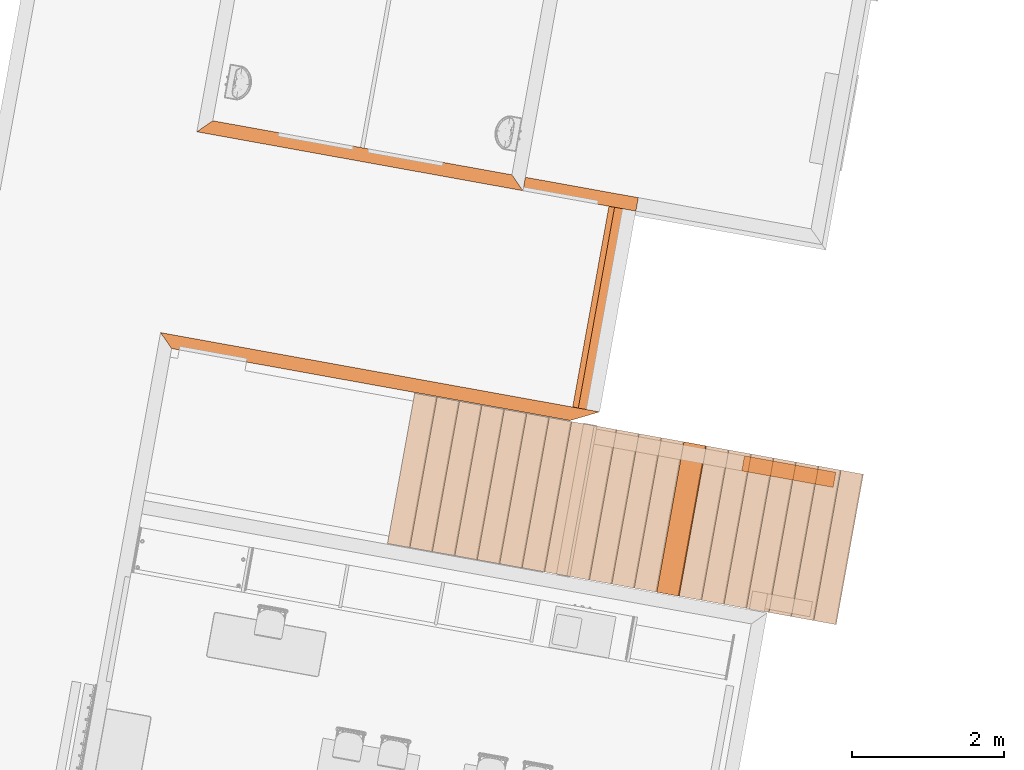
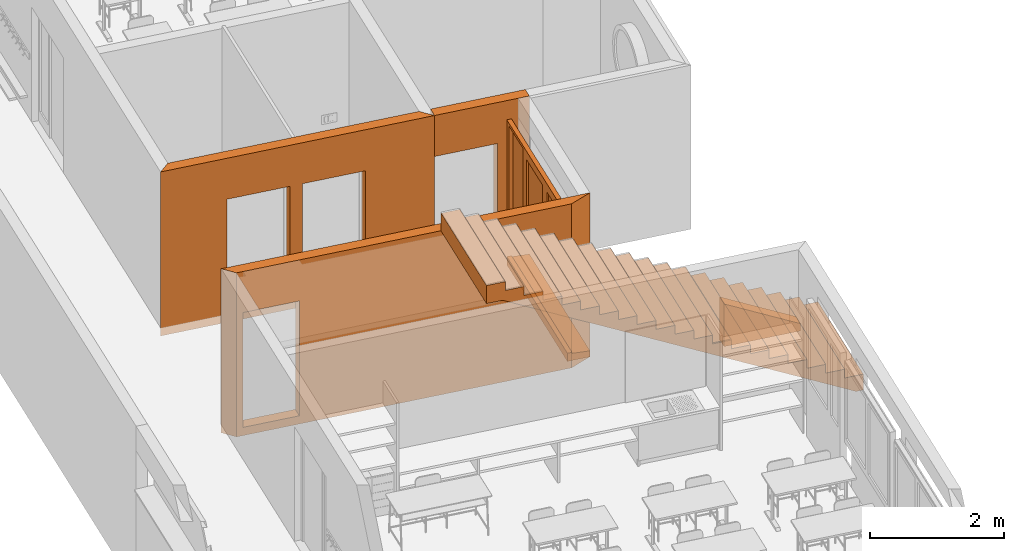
# One storey, part 59 of 79: 8 proxies, 1 element without a shape of its own.
"""IFC2X3 building model written with IfcOpenShell, lengths in metres."""

from ifc_helpers import new_model, entity, si_unit, converted_unit, derived_unit, money_unit, direction, frame, origin_with_axes, place, context, subcontext, project, spatial, polyline, outline, extrude, boolean, open_shell, faceted_brep, surface_model, material, type_object, element, aggregate, save


model = new_model("IFC2X3")

# Units and contexts
model_context = context("Model", 3, precision=1e-05, world=origin_with_axes(), true_north=direction((0.0, 1.0)))
body_context = subcontext(model_context, "Body", "Model", "MODEL_VIEW")
ifc_project = project(units=[si_unit("LENGTHUNIT", "METRE"), si_unit("AREAUNIT", "SQUARE_METRE"), si_unit("VOLUMEUNIT", "CUBIC_METRE"), converted_unit("PLANEANGLEUNIT", "DEGREE", entity("IfcPlaneAngleMeasure", 0.0174532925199), si_unit("PLANEANGLEUNIT", "RADIAN"), dimensions=[0, 0, 0, 0, 0, 0, 0]), money_unit("CHF"), converted_unit("TIMEUNIT", "Year", entity("IfcTimeMeasure", 31556926.0), si_unit("TIMEUNIT", "SECOND"), dimensions=[0, 0, 1, 0, 0, 0, 0]), si_unit("MASSUNIT", "GRAM", prefix="KILO"), si_unit("THERMODYNAMICTEMPERATUREUNIT", "DEGREE_CELSIUS"), si_unit("LUMINOUSINTENSITYUNIT", "LUMEN"), si_unit("ENERGYUNIT", "JOULE", prefix="MEGA"), derived_unit("THERMALCONDUCTANCEUNIT", [(si_unit("POWERUNIT", "WATT"), 1), (si_unit("LENGTHUNIT", "METRE"), -1), (si_unit("THERMODYNAMICTEMPERATUREUNIT", "KELVIN"), -1)]), derived_unit("SPECIFICHEATCAPACITYUNIT", [(si_unit("ENERGYUNIT", "JOULE"), 1), (si_unit("MASSUNIT", "GRAM", prefix="KILO"), -1), (si_unit("THERMODYNAMICTEMPERATUREUNIT", "KELVIN"), -1)]), derived_unit("MASSDENSITYUNIT", [(si_unit("MASSUNIT", "GRAM", prefix="KILO"), 1), (si_unit("VOLUMEUNIT", "CUBIC_METRE"), -1)])], contexts=[model_context])

# Site, building, storey
site_placement = place(None, frame((0.0, 0.0, 0.0), z_axis=(0.0, 0.0, 1.0), x_axis=(-0.177771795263, -0.984071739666, 0.0)))
site = spatial("IfcSite", under=ifc_project, at=site_placement, Name="Site", CompositionType="ELEMENT")
building_placement = place(site_placement, origin_with_axes())
building = spatial("IfcBuilding", under=site, at=building_placement, Name="Bâtiment", CompositionType="ELEMENT")
storey_placement = place(building_placement, origin_with_axes())
storey = spatial("IfcBuildingStorey", under=building, at=storey_placement, Name="RDC", CompositionType="ELEMENT", Elevation=0.0)

# Proxies
ifc_material_1 = material(Name="_Agglos")
building_element_proxy_type_1 = type_object("IfcBuildingElementProxyType", Name="_Agglos 200", PredefinedType="NOTDEFINED")
proxy_1_placement = place(storey_placement, frame((144.410042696, -148.777810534, -0.15), z_axis=(0.0, 0.0, 1.0), x_axis=(0.0, 1.0, 0.0)))
element("IfcBuildingElementProxy", 1, at=proxy_1_placement, inside=storey, type_object=building_element_proxy_type_1, material=ifc_material_1, Name="M ext esc-dessous", context=body_context, shape_type="Brep", body=[
    faceted_brep([(0.0, 0.2, 0.781242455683), (1.22066117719, 0.2, 0.130223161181), (1.22066117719, 0.2, 0.0), (0.0, 0.2, 0.0), (1.22066117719, 0.0, 0.130223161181), (0.0, 0.0, 0.781242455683), (1.22066117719, 0.0, 0.0), (0.0, 0.0, 0.0)], [[[0, 1, 2, 3]], [[4, 1, 0, 5]], [[1, 4, 6, 2]], [[6, 7, 3, 2]], [[5, 0, 3, 7]], [[4, 5, 7, 6]]]),
])
ifc_material_2 = material(Name="_BA banché RAL9007")
building_element_proxy_type_2 = type_object("IfcBuildingElementProxyType", Name="_BA banché RAL9007 180", PredefinedType="NOTDEFINED")
proxy_2_placement = place(storey_placement, frame((144.159841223, -156.627149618, -0.15), z_axis=(0.0, 0.0, 1.0), x_axis=(0.0, 1.0, 0.0)))
element("IfcBuildingElementProxy", 2, at=proxy_2_placement, inside=storey, type_object=building_element_proxy_type_2, material=ifc_material_2, Name="M refend", context=body_context, shape_type="CSG", body=[
    boolean("DIFFERENCE", extrude(outline(polyline([(0.18, 0.0), (5.51000031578, 0.0), (5.8700003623, 0.18), (1.12389102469e-08, 0.18), (0.18, 0.0)])), origin_with_axes(), (0.0, 0.0, 1.0), 3.0), faceted_brep([(0.280147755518, 0.18, 0.15), (0.280147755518, 0.18, 2.25), (1.18014775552, 0.18, 2.25), (1.18014775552, 0.18, 0.15), (0.280147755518, 0.0, 0.15), (0.280147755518, 0.0, 2.25), (1.18014775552, 0.0, 2.25), (1.18014775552, 0.0, 0.15)], [[[0, 1, 2, 3]], [[4, 5, 1, 0]], [[5, 6, 2, 1]], [[6, 7, 3, 2]], [[7, 4, 0, 3]], [[4, 7, 6, 5]]])),
])
proxy_3_placement = place(storey_placement, frame((141.294841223, -156.627150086, -0.15), z_axis=(0.0, 0.0, 1.0), x_axis=(0.0, 1.0, 0.0)))
element("IfcBuildingElementProxy", 3, at=proxy_3_placement, inside=storey, type_object=building_element_proxy_type_2, material=ifc_material_2, Name="M refend", context=body_context, shape_type="CSG", body=[
    boolean("DIFFERENCE", boolean("DIFFERENCE", extrude(outline(polyline([(0.0, 0.0), (4.36005520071, 0.0), (4.18005520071, 0.18), (0.179999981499, 0.18), (0.0, 0.0)])), origin_with_axes(), (0.0, 0.0, 1.0), 3.0), faceted_brep([(1.06, 0.18, 0.15), (1.06, 0.18, 2.25), (2.06, 0.18, 2.25), (2.06, 0.18, 0.15), (1.06, 0.0, 0.15), (1.06, 0.0, 2.25), (2.06, 0.0, 2.25), (2.06, 0.0, 0.15)], [[[0, 1, 2, 3]], [[4, 5, 1, 0]], [[5, 6, 2, 1]], [[6, 7, 3, 2]], [[7, 4, 0, 3]], [[4, 7, 6, 5]]])), faceted_brep([(2.26, 0.18, 0.15), (2.26, 0.18, 2.25), (3.26, 0.18, 2.25), (3.26, 0.18, 0.15), (2.26, 0.0, 0.15), (2.26, 0.0, 2.25), (3.26, 0.0, 2.25), (3.26, 0.0, 0.15)], [[[0, 1, 2, 3]], [[4, 5, 1, 0]], [[5, 6, 2, 1]], [[6, 7, 3, 2]], [[7, 4, 0, 3]], [[4, 7, 6, 5]]])),
])
building_element_proxy_type_3 = type_object("IfcBuildingElementProxyType", Name="_M ext 18 +18 gris 360", PredefinedType="NOTDEFINED")
proxy_4_placement = place(storey_placement, frame((141.294841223, -152.267150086, -0.15), z_axis=(0.0, 0.0, 1.0), x_axis=(0.0, 1.0, 0.0)))
element("IfcBuildingElementProxy", 4, at=proxy_4_placement, inside=storey, type_object=building_element_proxy_type_3, material=ifc_material_2, Name="M ext entretien-Sud", context=body_context, shape_type="CSG", body=[
    boolean("DIFFERENCE", extrude(outline(polyline([(0.0, 0.0), (1.51000152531, 0.0), (1.51000152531, 0.18), (0.0, 0.18), (0.0, 0.0)])), origin_with_axes(), (0.0, 0.0, 1.0), 3.0), faceted_brep([(0.0, 0.0, 0.15), (1.0, 0.0, 0.15), (1.0, 0.0, 2.25), (0.0, 0.0, 2.25), (0.0, 0.18, 0.15), (1.0, 0.18, 0.15), (1.0, 0.18, 2.25), (0.0, 0.18, 2.25)], [[[0, 1, 2, 3]], [[1, 0, 4, 5]], [[2, 1, 5, 6]], [[3, 2, 6, 7]], [[4, 0, 3, 7]], [[5, 4, 7, 6]]])),
])
building_element_proxy_type_4 = type_object("IfcBuildingElementProxyType", Name="_BA banché RAL9007 150", PredefinedType="NOTDEFINED")
proxy_5_placement = place(storey_placement, frame((141.294840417, -151.117148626, 0.0), z_axis=(0.0, 0.0, 1.0), x_axis=(1.0, 0.0, 0.0)))
element("IfcBuildingElementProxy", 5, at=proxy_5_placement, inside=storey, type_object=building_element_proxy_type_4, material=ifc_material_2, Name="Seuil acces cour", context=body_context, shape_type="Brep", body=[
    faceted_brep([(0.0, 0.35999918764, -0.04), (2.68500078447, 0.359999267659, -0.04), (2.68500078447, 0.359999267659, -0.15), (0.0, 0.35999918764, -0.15), (2.68500070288, 0.0750029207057, -0.02), (-8.15839500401e-08, 0.075, -0.02), (2.68500070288, 0.0750029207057, 0.0), (2.68500078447, 2.92070572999e-06, 0.0), (2.68500078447, 2.92070572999e-06, -0.15), (0.0, 0.0, -0.15), (0.0, 0.0, 0.0), (-8.15839500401e-08, 0.075, 0.0)], [[[0, 1, 2, 3]], [[4, 1, 0, 5]], [[4, 6, 7, 8, 2, 1]], [[8, 9, 3, 2]], [[5, 0, 3, 9, 10, 11]], [[11, 6, 4, 5]], [[6, 11, 10, 7]], [[10, 9, 8, 7]]]),
])
ifc_material_3 = material(Name="Matériau de construction IFC")
building_element_proxy_type_5 = type_object("IfcBuildingElementProxyType", Name="Porte double avec tierce vitrée 21", PredefinedType="NOTDEFINED")
proxy_6_placement = place(storey_placement, frame((141.296041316, -150.757148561, 0.0), z_axis=(0.0, 0.0, 1.0), x_axis=(1.0, -2.58814252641e-07, 0.0)))
element("IfcBuildingElementProxy", 6, at=proxy_6_placement, inside=storey, type_object=building_element_proxy_type_5, material=ifc_material_3, Name="Porte cour", context=body_context, shape_type="SurfaceModel", body=[
    faceted_brep([(0.0, -0.285, 0.0), (0.1, -0.285, 0.0), (0.1, -0.36, 0.0), (0.0, -0.36, 0.0), (0.0, -0.285, 2.45), (0.1, -0.285, 2.45), (0.1, -0.285, 0.48), (0.1, -0.36, 0.48), (0.1, -0.36, 2.45), (0.0, -0.36, 2.45)], [[[0, 1, 2, 3]], [[0, 4, 5, 6, 1]], [[1, 6, 7, 2]], [[3, 2, 7, 8, 9]], [[4, 0, 3, 9]], [[5, 4, 9, 8]], [[6, 5, 8, 7]]]),
    faceted_brep([(0.7275, -0.285, 2.45), (0.7275, -0.285, 0.48), (0.7275, -0.36, 0.48), (0.7275, -0.36, 2.45), (0.7775, -0.285, 2.45), (0.7775, -0.285, 0.0), (0.7275, -0.285, 0.0), (0.7275, -0.36, 0.0), (0.7775, -0.36, 0.0), (0.7775, -0.36, 2.45)], [[[0, 1, 2, 3]], [[0, 4, 5, 6, 1]], [[1, 6, 7, 2]], [[3, 2, 7, 8, 9]], [[4, 0, 3, 9]], [[5, 4, 9, 8]], [[6, 5, 8, 7]]]),
    faceted_brep([(0.1, -0.285, 0.48), (0.1, -0.285, 0.0), (0.1, -0.36, 0.0), (0.1, -0.36, 0.48), (0.7275, -0.285, 0.48), (0.7275, -0.285, 0.0), (0.7275, -0.36, 0.0), (0.7275, -0.36, 0.48)], [[[0, 1, 2, 3]], [[0, 4, 5, 1]], [[1, 5, 6, 2]], [[3, 2, 6, 7]], [[4, 0, 3, 7]], [[5, 4, 7, 6]]]),
    faceted_brep([(2.6825, -0.285, 0.0), (2.6825, -0.285, 2.45), (2.6825, -0.36, 2.45), (2.6825, -0.36, 0.0), (2.5825, -0.285, 0.0), (2.5825, -0.285, 2.45), (2.5825, -0.36, 2.45), (2.5825, -0.36, 0.0)], [[[0, 1, 2, 3]], [[0, 4, 5, 1]], [[1, 5, 6, 2]], [[3, 2, 6, 7]], [[4, 0, 3, 7]], [[5, 4, 7, 6]]]),
    faceted_brep([(0.0, -0.285, 2.5), (0.0, -0.285, 2.45), (0.0, -0.36, 2.45), (0.0, -0.36, 2.5), (2.6825, -0.285, 2.5), (2.6825, -0.285, 2.45), (2.5825, -0.285, 2.45), (0.7775, -0.285, 2.45), (0.7275, -0.285, 2.45), (0.1, -0.285, 2.45), (0.1, -0.36, 2.45), (0.7275, -0.36, 2.45), (0.7775, -0.36, 2.45), (2.5825, -0.36, 2.45), (2.6825, -0.36, 2.45), (2.6825, -0.36, 2.5)], [[[0, 1, 2, 3]], [[0, 4, 5, 6, 7, 8, 9, 1]], [[1, 9, 10, 2]], [[3, 2, 10, 11, 12, 13, 14, 15]], [[4, 0, 3, 15]], [[5, 4, 15, 14]], [[6, 5, 14, 13]], [[7, 6, 13, 12]], [[8, 7, 12, 11]], [[9, 8, 11, 10]]]),
    faceted_brep([(2.5825, -0.285, 0.5), (2.5825, -0.36, 0.5), (2.4825, -0.36, 0.5), (2.4825, -0.285, 0.5), (2.5825, -0.285, 2.35), (2.5825, -0.36, 2.35), (2.4825, -0.36, 2.35), (2.4825, -0.285, 2.35)], [[[0, 1, 2, 3]], [[4, 5, 1, 0]], [[1, 5, 6, 2]], [[3, 2, 6, 7]], [[0, 3, 7, 4]], [[7, 6, 5, 4]]]),
    faceted_brep([(1.68, -0.285, 0.5), (1.68, -0.36, 0.5), (1.68, -0.36, 2.35), (1.68, -0.285, 2.35), (1.78, -0.285, 0.5), (1.78, -0.36, 0.5), (1.78, -0.36, 2.35), (1.78, -0.285, 2.35)], [[[0, 1, 2, 3]], [[4, 5, 1, 0]], [[1, 5, 6, 2]], [[3, 2, 6, 7]], [[0, 3, 7, 4]], [[7, 6, 5, 4]]]),
    faceted_brep([(2.5825, -0.285, 0.0), (2.5825, -0.36, 0.0), (1.68, -0.36, 0.0), (1.68, -0.285, 0.0), (2.5825, -0.285, 0.5), (2.5825, -0.36, 0.5), (2.4825, -0.36, 0.5), (1.78, -0.36, 0.5), (1.68, -0.36, 0.5), (1.68, -0.285, 0.5), (1.78, -0.285, 0.5), (2.4825, -0.285, 0.5)], [[[0, 1, 2, 3]], [[4, 5, 1, 0]], [[1, 5, 6, 7, 8, 2]], [[3, 2, 8, 9]], [[0, 3, 9, 10, 11, 4]], [[11, 6, 5, 4]], [[10, 7, 6, 11]], [[9, 8, 7, 10]]]),
    faceted_brep([(2.5825, -0.285, 2.45), (2.5825, -0.36, 2.45), (2.5825, -0.36, 2.35), (2.5825, -0.285, 2.35), (1.68, -0.285, 2.45), (1.68, -0.36, 2.45), (1.68, -0.36, 2.35), (1.78, -0.36, 2.35), (2.4825, -0.36, 2.35), (2.4825, -0.285, 2.35), (1.78, -0.285, 2.35), (1.68, -0.285, 2.35)], [[[0, 1, 2, 3]], [[4, 5, 1, 0]], [[1, 5, 6, 7, 8, 2]], [[3, 2, 8, 9]], [[0, 3, 9, 10, 11, 4]], [[11, 6, 5, 4]], [[10, 7, 6, 11]], [[9, 8, 7, 10]]]),
    surface_model("IfcShellBasedSurfaceModel", [(2.4825, -0.3125, 0.5), (1.78, -0.3125, 0.5), (1.78, -0.3125, 2.35), (2.4825, -0.3125, 2.35)], [open_shell([[[0, 1, 2, 3]]])]),
    surface_model("IfcShellBasedSurfaceModel", [(2.4825, -0.3325, 0.5), (2.4825, -0.3325, 2.35), (1.78, -0.3325, 2.35), (1.78, -0.3325, 0.5)], [open_shell([[[0, 1, 2, 3]]])]),
    faceted_brep([(0.7775, -0.285, 0.5), (0.8775, -0.285, 0.5), (0.8775, -0.36, 0.5), (0.7775, -0.36, 0.5), (0.7775, -0.285, 2.35), (0.8775, -0.285, 2.35), (0.8775, -0.36, 2.35), (0.7775, -0.36, 2.35)], [[[0, 1, 2, 3]], [[0, 4, 5, 1]], [[1, 5, 6, 2]], [[3, 2, 6, 7]], [[4, 0, 3, 7]], [[5, 4, 7, 6]]]),
    faceted_brep([(1.68, -0.285, 0.5), (1.68, -0.285, 2.35), (1.68, -0.36, 2.35), (1.68, -0.36, 0.5), (1.58, -0.285, 0.5), (1.58, -0.285, 2.35), (1.58, -0.36, 2.35), (1.58, -0.36, 0.5)], [[[0, 1, 2, 3]], [[0, 4, 5, 1]], [[1, 5, 6, 2]], [[3, 2, 6, 7]], [[4, 0, 3, 7]], [[5, 4, 7, 6]]]),
    faceted_brep([(0.7775, -0.285, 0.0), (1.68, -0.285, 0.0), (1.68, -0.36, 0.0), (0.7775, -0.36, 0.0), (0.7775, -0.285, 0.5), (0.8775, -0.285, 0.5), (1.58, -0.285, 0.5), (1.68, -0.285, 0.5), (1.68, -0.36, 0.5), (1.58, -0.36, 0.5), (0.8775, -0.36, 0.5), (0.7775, -0.36, 0.5)], [[[0, 1, 2, 3]], [[0, 4, 5, 6, 7, 1]], [[1, 7, 8, 2]], [[3, 2, 8, 9, 10, 11]], [[4, 0, 3, 11]], [[5, 4, 11, 10]], [[6, 5, 10, 9]], [[7, 6, 9, 8]]]),
    faceted_brep([(0.7775, -0.285, 2.45), (0.7775, -0.285, 2.35), (0.7775, -0.36, 2.35), (0.7775, -0.36, 2.45), (1.68, -0.285, 2.45), (1.68, -0.285, 2.35), (1.58, -0.285, 2.35), (0.8775, -0.285, 2.35), (0.8775, -0.36, 2.35), (1.58, -0.36, 2.35), (1.68, -0.36, 2.35), (1.68, -0.36, 2.45)], [[[0, 1, 2, 3]], [[0, 4, 5, 6, 7, 1]], [[1, 7, 8, 2]], [[3, 2, 8, 9, 10, 11]], [[4, 0, 3, 11]], [[5, 4, 11, 10]], [[6, 5, 10, 9]], [[7, 6, 9, 8]]]),
    surface_model("IfcShellBasedSurfaceModel", [(0.8775, -0.3125, 0.5), (0.8775, -0.3125, 2.35), (1.58, -0.3125, 2.35), (1.58, -0.3125, 0.5)], [open_shell([[[0, 1, 2, 3]]])]),
    surface_model("IfcShellBasedSurfaceModel", [(0.8775, -0.3325, 0.5), (1.58, -0.3325, 0.5), (1.58, -0.3325, 2.35), (0.8775, -0.3325, 2.35)], [open_shell([[[0, 1, 2, 3]]])]),
    surface_model("IfcShellBasedSurfaceModel", [(0.1, -0.275, 0.48), (0.1, -0.275, 2.45), (0.7275, -0.275, 2.45), (0.7275, -0.275, 0.48)], [open_shell([[[0, 1, 2, 3]]])]),
    surface_model("IfcShellBasedSurfaceModel", [(0.1, -0.295, 0.48), (0.7275, -0.295, 0.48), (0.7275, -0.295, 2.45), (0.1, -0.295, 2.45)], [open_shell([[[0, 1, 2, 3]]])]),
])

building_element_proxy_type_6 = type_object("IfcBuildingElementProxyType", Name="Type d'escalier", PredefinedType="NOTDEFINED")
proxy_7_placement = place(storey_placement, origin_with_axes())
proxy_7 = element("IfcBuildingElementProxy", 7, at=proxy_7_placement, inside=storey, type_object=building_element_proxy_type_6, Name="ESC-2")
ifc_material_4 = material(Name="_BA banché")
building_element_proxy_type_7 = type_object("IfcBuildingElementProxyType", Name="IfcBuildingElementProxy", PredefinedType="NOTDEFINED")
proxy_8_placement = place(proxy_7_placement, frame((145.175042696, -147.195380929, 0.0), z_axis=(0.0, 0.0, 1.0), x_axis=(-0.988744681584, -0.149612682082, 0.0)))
proxy_8 = element("IfcBuildingElementProxy", 8, at=proxy_8_placement, type_object=building_element_proxy_type_7, material=ifc_material_4, Name="VOLEE-002", context=body_context, shape_type="Brep", body=[
    faceted_brep([(1.84649565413, 5.485582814, 3.18), (1.84649565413, 5.485582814, 3.02), (1.8016118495, 5.18895940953, 3.02), (1.8016118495, 5.18895940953, 2.86), (1.75672804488, 4.89233600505, 2.86), (1.75672804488, 4.89233600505, 2.7), (1.71184424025, 4.59571260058, 2.7), (1.71184424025, 4.59571260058, 2.54), (1.66696043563, 4.2990891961, 2.54), (1.66696043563, 4.2990891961, 2.38), (1.622076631, 4.00246579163, 2.38), (1.622076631, 4.00246579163, 2.22), (1.57719282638, 3.70584238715, 2.22), (1.57719282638, 3.70584238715, 2.06), (1.53230902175, 3.40921898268, 2.06), (1.53230902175, 3.40921898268, 1.9), (1.48742521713, 3.1125955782, 1.9), (1.48742521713, 3.1125955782, 1.74), (1.44254141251, 2.81597217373, 1.74), (1.44254141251, 2.81597217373, 1.58), (1.39765760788, 2.51934876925, 1.58), (1.39765760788, 2.51934876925, 1.42), (1.35277380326, 2.22272536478, 1.42), (1.35277380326, 2.22272536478, 1.26), (1.30788999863, 1.9261019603, 1.26), (1.30788999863, 1.9261019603, 1.1), (1.26300619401, 1.62947855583, 1.1), (1.26300619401, 1.62947855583, 0.94), (1.21812238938, 1.33285515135, 0.94), (1.21812238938, 1.33285515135, 0.78), (1.17323858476, 1.03623174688, 0.78), (1.17323858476, 1.03623174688, 0.62), (1.12835478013, 0.739608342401, 0.62), (1.12835478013, 0.739608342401, 0.46), (1.08347097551, 0.442984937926, 0.46), (1.08347097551, 0.442984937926, 0.3), (1.03858717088, 0.146361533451, 0.3), (1.03858717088, 0.146361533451, 0.14), (0.99370336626, -0.150261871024, 0.14), (0.99370336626, -0.150261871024, -0.02), (0.993688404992, -0.150360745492, -0.02), (0.993688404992, -0.150360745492, -0.15), (1.0112828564, -0.0340843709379, -0.15), (1.0161303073, -0.0020490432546, -0.13272), (1.02361094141, 0.0473881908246, -0.106053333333), (1.02735125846, 0.0721068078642, -0.09272), (1.03857220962, 0.146262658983, -0.05272), (1.04979316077, 0.220418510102, -0.01272), (1.05353347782, 0.245137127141, 0.00061333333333), (1.06101411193, 0.294574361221, 0.02728), (1.06849474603, 0.3440115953, 0.0539466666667), (1.07223506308, 0.368730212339, 0.06728), (1.08345601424, 0.442886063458, 0.10728), (1.0946769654, 0.517041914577, 0.14728), (1.09841728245, 0.541760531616, 0.160613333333), (1.10589791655, 0.591197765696, 0.18728), (1.11337855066, 0.640634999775, 0.213946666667), (1.11711886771, 0.665353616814, 0.22728), (1.12833981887, 0.739509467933, 0.26728), (1.14330108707, 0.838383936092, 0.320613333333), (1.15826235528, 0.93725840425, 0.373946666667), (1.17322362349, 1.03613287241, 0.42728), (1.18444457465, 1.11028872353, 0.46728), (1.1881848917, 1.13500734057, 0.480613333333), (1.1956655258, 1.18444457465, 0.50728), (1.20314615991, 1.23388180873, 0.533946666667), (1.20688647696, 1.25860042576, 0.54728), (1.21810742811, 1.33275627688, 0.58728), (1.22932837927, 1.406912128, 0.62728), (1.23306869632, 1.43163074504, 0.640613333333), (1.24054933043, 1.48106797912, 0.66728), (1.24802996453, 1.5305052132, 0.693946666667), (1.25177028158, 1.55522383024, 0.70728), (1.26299123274, 1.62937968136, 0.74728), (1.2742121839, 1.70353553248, 0.78728), (1.28543313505, 1.7776913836, 0.82728), (1.29665408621, 1.85184723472, 0.86728), (1.30787503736, 1.92600308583, 0.90728), (1.32283630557, 2.02487755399, 0.960613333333), (1.33779757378, 2.12375202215, 1.01394666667), (1.35275884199, 2.22262649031, 1.06728), (1.36397979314, 2.29678234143, 1.10728), (1.3752007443, 2.37093819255, 1.14728), (1.38642169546, 2.44509404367, 1.18728), (1.39764264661, 2.51924989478, 1.22728), (1.40886359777, 2.5934057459, 1.26728), (1.41260391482, 2.61812436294, 1.28061333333), (1.42008454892, 2.66756159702, 1.30728), (1.42756518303, 2.7169988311, 1.33394666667), (1.43130550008, 2.74171744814, 1.34728), (1.44252645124, 2.81587329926, 1.38728), (1.45748771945, 2.91474776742, 1.44061333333), (1.47244898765, 3.01362223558, 1.49394666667), (1.48741025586, 3.11249670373, 1.54728), (1.49863120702, 3.18665255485, 1.58728), (1.50237152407, 3.21137117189, 1.60061333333), (1.50985215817, 3.26080840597, 1.62728), (1.51733279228, 3.31024564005, 1.65394666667), (1.52107310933, 3.33496425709, 1.66728), (1.53229406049, 3.40912010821, 1.70728), (1.54351501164, 3.48327595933, 1.74728), (1.54725532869, 3.50799457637, 1.76061333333), (1.5547359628, 3.55743181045, 1.78728), (1.5622165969, 3.60686904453, 1.81394666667), (1.56595691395, 3.63158766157, 1.82728), (1.57717786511, 3.70574351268, 1.86728), (1.58839881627, 3.7798993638, 1.90728), (1.59213913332, 3.80461798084, 1.92061333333), (1.59961976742, 3.85405521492, 1.94728), (1.60710040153, 3.903492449, 1.97394666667), (1.61084071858, 3.92821106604, 1.98728), (1.62206166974, 4.00236691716, 2.02728), (1.63702293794, 4.10124138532, 2.08061333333), (1.65198420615, 4.20011585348, 2.13394666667), (1.66694547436, 4.29899032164, 2.18728), (1.68190674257, 4.39786478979, 2.24061333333), (1.69686801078, 4.49673925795, 2.29394666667), (1.71182927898, 4.59561372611, 2.34728), (1.72305023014, 4.66976957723, 2.38728), (1.7342711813, 4.74392542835, 2.42728), (1.74549213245, 4.81808127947, 2.46728), (1.75671308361, 4.89223713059, 2.50728), (1.77167435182, 4.99111159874, 2.56061333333), (1.78663562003, 5.0899860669, 2.61394666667), (1.80159688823, 5.18886053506, 2.66728), (1.81655815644, 5.28773500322, 2.72061333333), (1.83151942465, 5.38660947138, 2.77394666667), (1.84648069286, 5.48548393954, 2.82728), (1.85285419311, 5.52760446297, 2.85), (1.89136449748, 5.78210734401, 2.85), (1.89136449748, 5.78210734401, 2.98728), (1.89136449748, 5.78210734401, 3.18), (-0.140934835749, 5.7863124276, 3.18), (-0.140934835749, 5.7863124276, 3.02), (-0.185818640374, 5.48968902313, 3.02), (-0.185818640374, 5.48968902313, 2.86), (-0.230702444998, 5.19306561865, 2.86), (-0.230702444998, 5.19306561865, 2.7), (-0.275586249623, 4.89644221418, 2.7), (-0.275586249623, 4.89644221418, 2.54), (-0.320470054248, 4.5998188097, 2.54), (-0.320470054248, 4.5998188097, 2.38), (-0.365353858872, 4.30319540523, 2.38), (-0.365353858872, 4.30319540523, 2.22), (-0.410237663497, 4.00657200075, 2.22), (-0.410237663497, 4.00657200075, 2.06), (-0.455121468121, 3.70994859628, 2.06), (-0.455121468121, 3.70994859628, 1.9), (-0.500005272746, 3.4133251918, 1.9), (-0.500005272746, 3.4133251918, 1.74), (-0.54488907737, 3.11670178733, 1.74), (-0.54488907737, 3.11670178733, 1.58), (-0.589772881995, 2.82007838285, 1.58), (-0.589772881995, 2.82007838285, 1.42), (-0.634656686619, 2.52345497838, 1.42), (-0.634656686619, 2.52345497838, 1.26), (-0.679540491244, 2.2268315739, 1.26), (-0.679540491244, 2.2268315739, 1.1), (-0.724424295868, 1.93020816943, 1.1), (-0.724424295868, 1.93020816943, 0.94), (-0.769308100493, 1.63358476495, 0.94), (-0.769308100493, 1.63358476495, 0.78), (-0.814191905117, 1.33696136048, 0.78), (-0.814191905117, 1.33696136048, 0.62), (-0.859075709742, 1.040337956, 0.62), (-0.859075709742, 1.040337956, 0.46), (-0.903959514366, 0.743714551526, 0.46), (-0.903959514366, 0.743714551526, 0.3), (-0.948843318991, 0.447091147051, 0.3), (-0.948843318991, 0.447091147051, 0.14), (-0.993727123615, 0.150467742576, 0.14), (-0.993727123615, 0.150467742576, -0.02), (-0.993742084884, 0.150368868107, -0.02), (-0.993742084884, 0.150368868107, -0.15), (-0.976147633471, 0.266645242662, -0.15), (-0.971300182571, 0.298680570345, -0.13272), (-0.963819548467, 0.348117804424, -0.106053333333), (-0.960079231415, 0.372836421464, -0.09272), (-0.948858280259, 0.446992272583, -0.05272), (-0.937637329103, 0.521148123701, -0.01272), (-0.933897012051, 0.545866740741, 0.00061333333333), (-0.926416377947, 0.59530397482, 0.02728), (-0.918935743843, 0.644741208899, 0.0539466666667), (-0.915195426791, 0.669459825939, 0.06728), (-0.903974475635, 0.743615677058, 0.10728), (-0.892753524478, 0.817771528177, 0.14728), (-0.889013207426, 0.842490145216, 0.160613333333), (-0.881532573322, 0.891927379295, 0.18728), (-0.874051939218, 0.941364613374, 0.213946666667), (-0.870311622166, 0.966083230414, 0.22728), (-0.85909067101, 1.04023908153, 0.26728), (-0.844129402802, 1.13911354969, 0.320613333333), (-0.829168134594, 1.23798801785, 0.373946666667), (-0.814206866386, 1.33686248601, 0.42728), (-0.802985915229, 1.41101833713, 0.46728), (-0.799245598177, 1.43573695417, 0.480613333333), (-0.791764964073, 1.48517418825, 0.50728), (-0.784284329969, 1.53461142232, 0.533946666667), (-0.780544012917, 1.55933003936, 0.54728), (-0.769323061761, 1.63348589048, 0.58728), (-0.758102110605, 1.7076417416, 0.62728), (-0.754361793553, 1.73236035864, 0.640613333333), (-0.746881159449, 1.78179759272, 0.66728), (-0.739400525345, 1.8312348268, 0.693946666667), (-0.735660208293, 1.85595344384, 0.70728), (-0.724439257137, 1.93010929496, 0.74728), (-0.71321830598, 2.00426514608, 0.78728), (-0.701997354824, 2.0784209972, 0.82728), (-0.690776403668, 2.15257684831, 0.86728), (-0.679555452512, 2.22673269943, 0.90728), (-0.664594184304, 2.32560716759, 0.960613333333), (-0.649632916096, 2.42448163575, 1.01394666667), (-0.634671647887, 2.52335610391, 1.06728), (-0.623450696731, 2.59751195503, 1.10728), (-0.612229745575, 2.67166780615, 1.14728), (-0.601008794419, 2.74582365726, 1.18728), (-0.589787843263, 2.81997950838, 1.22728), (-0.578566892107, 2.8941353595, 1.26728), (-0.574826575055, 2.91885397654, 1.28061333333), (-0.567345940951, 2.96829121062, 1.30728), (-0.559865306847, 3.0177284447, 1.33394666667), (-0.556124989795, 3.04244706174, 1.34728), (-0.544904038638, 3.11660291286, 1.38728), (-0.52994277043, 3.21547738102, 1.44061333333), (-0.514981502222, 3.31435184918, 1.49394666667), (-0.500020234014, 3.41322631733, 1.54728), (-0.488799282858, 3.48738216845, 1.58728), (-0.485058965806, 3.51210078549, 1.60061333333), (-0.477578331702, 3.56153801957, 1.62728), (-0.470097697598, 3.61097525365, 1.65394666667), (-0.466357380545, 3.63569387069, 1.66728), (-0.455136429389, 3.70984972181, 1.70728), (-0.443915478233, 3.78400557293, 1.74728), (-0.440175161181, 3.80872418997, 1.76061333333), (-0.432694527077, 3.85816142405, 1.78728), (-0.425213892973, 3.90759865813, 1.81394666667), (-0.421473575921, 3.93231727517, 1.82728), (-0.410252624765, 4.00647312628, 1.86728), (-0.399031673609, 4.0806289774, 1.90728), (-0.395291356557, 4.10534759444, 1.92061333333), (-0.387810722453, 4.15478482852, 1.94728), (-0.380330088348, 4.2042220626, 1.97394666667), (-0.376589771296, 4.22894067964, 1.98728), (-0.36536882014, 4.30309653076, 2.02728), (-0.350407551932, 4.40197099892, 2.08061333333), (-0.335446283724, 4.50084546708, 2.13394666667), (-0.320485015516, 4.59971993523, 2.18728), (-0.305523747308, 4.69859440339, 2.24061333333), (-0.290562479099, 4.79746887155, 2.29394666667), (-0.275601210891, 4.89634333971, 2.34728), (-0.264380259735, 4.97049919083, 2.38728), (-0.253159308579, 5.04465504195, 2.42728), (-0.241938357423, 5.11881089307, 2.46728), (-0.230717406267, 5.19296674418, 2.50728), (-0.215756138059, 5.29184121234, 2.56061333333), (-0.20079486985, 5.3907156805, 2.61394666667), (-0.185833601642, 5.48959014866, 2.66728), (-0.170872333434, 5.58846461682, 2.72061333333), (-0.155911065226, 5.68733908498, 2.77394666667), (-0.140949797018, 5.78621355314, 2.82728), (-0.134576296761, 5.82833407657, 2.85), (-0.0960659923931, 6.08283695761, 2.85), (-0.0960659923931, 6.08283695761, 2.98728), (-0.0960659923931, 6.08283695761, 3.18)], [[[0, 1, 2, 3, 4, 5, 6, 7, 8, 9, 10, 11, 12, 13, 14, 15, 16, 17, 18, 19, 20, 21, 22, 23, 24, 25, 26, 27, 28, 29, 30, 31, 32, 33, 34, 35, 36, 37, 38, 39, 40, 41, 42, 43, 44, 45, 46, 47, 48, 49, 50, 51, 52, 53, 54, 55, 56, 57, 58, 59, 60, 61, 62, 63, 64, 65, 66, 67, 68, 69, 70, 71, 72, 73, 74, 75, 76, 77, 78, 79, 80, 81, 82, 83, 84, 85, 86, 87, 88, 89, 90, 91, 92, 93, 94, 95, 96, 97, 98, 99, 100, 101, 102, 103, 104, 105, 106, 107, 108, 109, 110, 111, 112, 113, 114, 115, 116, 117, 118, 119, 120, 121, 122, 123, 124, 125, 126, 127, 128, 129, 130, 131]], [[132, 133, 1, 0]], [[133, 134, 2, 1]], [[134, 135, 3, 2]], [[135, 136, 4, 3]], [[136, 137, 5, 4]], [[137, 138, 6, 5]], [[138, 139, 7, 6]], [[139, 140, 8, 7]], [[140, 141, 9, 8]], [[141, 142, 10, 9]], [[142, 143, 11, 10]], [[143, 144, 12, 11]], [[144, 145, 13, 12]], [[145, 146, 14, 13]], [[146, 147, 15, 14]], [[147, 148, 16, 15]], [[148, 149, 17, 16]], [[149, 150, 18, 17]], [[150, 151, 19, 18]], [[151, 152, 20, 19]], [[152, 153, 21, 20]], [[153, 154, 22, 21]], [[154, 155, 23, 22]], [[155, 156, 24, 23]], [[156, 157, 25, 24]], [[157, 158, 26, 25]], [[158, 159, 27, 26]], [[159, 160, 28, 27]], [[160, 161, 29, 28]], [[161, 162, 30, 29]], [[162, 163, 31, 30]], [[163, 164, 32, 31]], [[164, 165, 33, 32]], [[165, 166, 34, 33]], [[166, 167, 35, 34]], [[167, 168, 36, 35]], [[168, 169, 37, 36]], [[169, 170, 38, 37]], [[170, 171, 39, 38]], [[39, 171, 172, 40]], [[172, 173, 41, 40]], [[42, 41, 173, 174]], [[43, 42, 174, 175]], [[44, 43, 175, 176]], [[45, 44, 176, 177]], [[46, 45, 177, 178]], [[47, 46, 178, 179]], [[48, 47, 179, 180]], [[49, 48, 180, 181]], [[50, 49, 181, 182]], [[51, 50, 182, 183]], [[52, 51, 183, 184]], [[53, 52, 184, 185]], [[54, 53, 185, 186]], [[55, 54, 186, 187]], [[56, 55, 187, 188]], [[57, 56, 188, 189]], [[58, 57, 189, 190]], [[59, 58, 190, 191]], [[60, 59, 191, 192]], [[61, 60, 192, 193]], [[62, 61, 193, 194]], [[63, 62, 194, 195]], [[64, 63, 195, 196]], [[65, 64, 196, 197]], [[66, 65, 197, 198]], [[67, 66, 198, 199]], [[68, 67, 199, 200]], [[69, 68, 200, 201]], [[70, 69, 201, 202]], [[71, 70, 202, 203]], [[72, 71, 203, 204]], [[73, 72, 204, 205]], [[74, 73, 205, 206]], [[75, 74, 206, 207]], [[76, 75, 207, 208]], [[77, 76, 208, 209]], [[78, 77, 209, 210]], [[79, 78, 210, 211]], [[80, 79, 211, 212]], [[81, 80, 212, 213]], [[82, 81, 213, 214]], [[83, 82, 214, 215]], [[84, 83, 215, 216]], [[85, 84, 216, 217]], [[86, 85, 217, 218]], [[87, 86, 218, 219]], [[88, 87, 219, 220]], [[89, 88, 220, 221]], [[90, 89, 221, 222]], [[91, 90, 222, 223]], [[92, 91, 223, 224]], [[93, 92, 224, 225]], [[94, 93, 225, 226]], [[95, 94, 226, 227]], [[96, 95, 227, 228]], [[97, 96, 228, 229]], [[98, 97, 229, 230]], [[99, 98, 230, 231]], [[100, 99, 231, 232]], [[101, 100, 232, 233]], [[102, 101, 233, 234]], [[103, 102, 234, 235]], [[104, 103, 235, 236]], [[105, 104, 236, 237]], [[106, 105, 237, 238]], [[107, 106, 238, 239]], [[108, 107, 239, 240]], [[109, 108, 240, 241]], [[110, 109, 241, 242]], [[111, 110, 242, 243]], [[112, 111, 243, 244]], [[113, 112, 244, 245]], [[114, 113, 245, 246]], [[115, 114, 246, 247]], [[116, 115, 247, 248]], [[117, 116, 248, 249]], [[118, 117, 249, 250]], [[119, 118, 250, 251]], [[120, 119, 251, 252]], [[121, 120, 252, 253]], [[122, 121, 253, 254]], [[123, 122, 254, 255]], [[124, 123, 255, 256]], [[125, 124, 256, 257]], [[126, 125, 257, 258]], [[127, 126, 258, 259]], [[259, 260, 128, 127]], [[129, 128, 260, 261]], [[261, 262, 130, 129]], [[131, 130, 262, 263]], [[263, 132, 0, 131]], [[263, 262, 261, 260, 259, 258, 257, 256, 255, 254, 253, 252, 251, 250, 249, 248, 247, 246, 245, 244, 243, 242, 241, 240, 239, 238, 237, 236, 235, 234, 233, 232, 231, 230, 229, 228, 227, 226, 225, 224, 223, 222, 221, 220, 219, 218, 217, 216, 215, 214, 213, 212, 211, 210, 209, 208, 207, 206, 205, 204, 203, 202, 201, 200, 199, 198, 197, 196, 195, 194, 193, 192, 191, 190, 189, 188, 187, 186, 185, 184, 183, 182, 181, 180, 179, 178, 177, 176, 175, 174, 173, 172, 171, 170, 169, 168, 167, 166, 165, 164, 163, 162, 161, 160, 159, 158, 157, 156, 155, 154, 153, 152, 151, 150, 149, 148, 147, 146, 145, 144, 143, 142, 141, 140, 139, 138, 137, 136, 135, 134, 133, 132]]]),
])
proxy_9_placement = place(proxy_7_placement, frame((145.175042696, -149.295380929, 1.28), z_axis=(0.0, 0.0, 1.0), x_axis=(1.0, 0.0, 0.0)))
proxy_9 = element("IfcBuildingElementProxy", 9, at=proxy_9_placement, type_object=building_element_proxy_type_7, material=ifc_material_4, Name="MARCHE-021", context=body_context, shape_type="Brep", body=[
    faceted_brep([(-1.005, -0.3, 0.0), (-1.005, -0.3, -0.02), (1.00505429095, -0.3, -0.02), (1.00505429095, -0.3, 0.0), (-1.005, -0.02, 0.0), (-1.005, -0.0165270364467, -0.00030384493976), (-1.005, -0.0131595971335, -0.00120614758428), (-1.005, -0.01, -0.00267949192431), (-1.005, -0.00714424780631, -0.00467911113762), (-1.005, -0.00467911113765, -0.00714424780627), (-1.005, -0.00267949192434, -0.01), (-1.005, -0.0012061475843, -0.0131595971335), (-1.005, -0.00030384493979, -0.0165270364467), (-1.005, 0.0, -0.02), (1.00505429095, 0.0, -0.02), (1.00505429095, -0.00030384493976, -0.0165270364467), (1.00505429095, -0.00120614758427, -0.0131595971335), (1.00505429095, -0.00267949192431, -0.01), (1.00505429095, -0.00467911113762, -0.00714424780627), (1.00505429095, -0.00714424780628, -0.00467911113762), (1.00505429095, -0.00999999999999, -0.00267949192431), (1.00505429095, -0.0131595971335, -0.00120614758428), (1.00505429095, -0.0165270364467, -0.00030384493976), (1.00505429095, -0.02, 0.0)], [[[0, 1, 2, 3]], [[4, 5, 6, 7, 8, 9, 10, 11, 12, 13, 1, 0]], [[14, 2, 1, 13]], [[15, 16, 17, 18, 19, 20, 21, 22, 23, 3, 2, 14]], [[3, 23, 4, 0]], [[22, 5, 4, 23]], [[21, 6, 5, 22]], [[20, 7, 6, 21]], [[19, 8, 7, 20]], [[18, 9, 8, 19]], [[17, 10, 9, 18]], [[16, 11, 10, 17]], [[15, 12, 11, 16]], [[14, 13, 12, 15]]]),
])
aggregate(proxy_7, [proxy_8, proxy_9])

save(model, "model.ifc")
